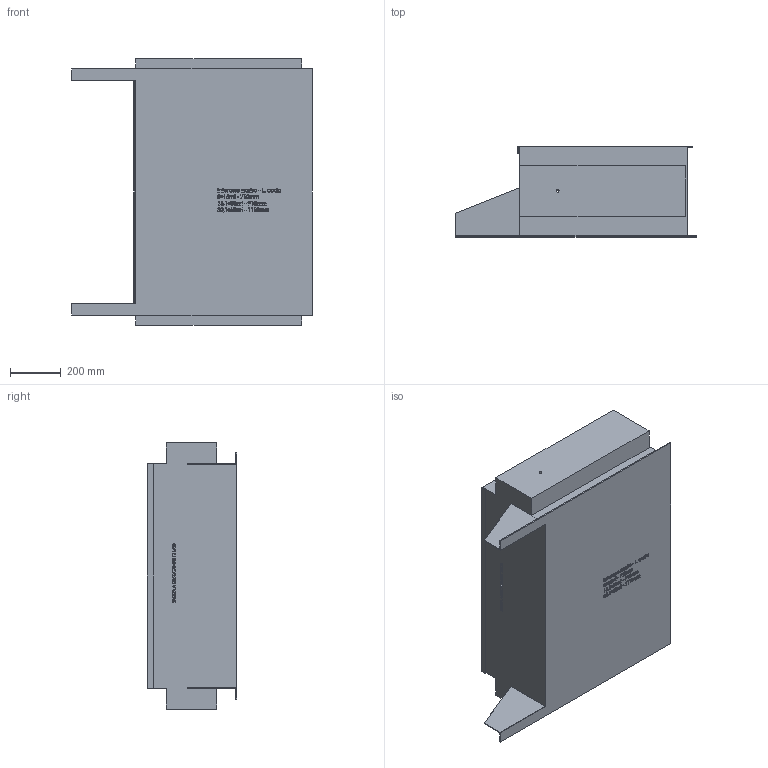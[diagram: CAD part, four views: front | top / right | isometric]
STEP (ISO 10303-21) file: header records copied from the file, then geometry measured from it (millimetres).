
FILE_DESCRIPTION (( 'STEP AP203' ), '1' );
FILE_NAME ('30755.step', '2019-03-14T14:31:50', ( 'PC' ), ( 'Hewlett-Packard Company' ), 'SwSTEP 2.0', 'SolidWorks 2016', '' );
FILE_SCHEMA (( 'CONFIG_CONTROL_DESIGN' ));
Length unit declared in the file: millimetre
Products named in the file (1): 30755
Bounding box: 950 x 353.5 x 1050 mm (x, y, z)
Volume: 228934305.4 mm3; surface area: 3047996.6 mm2
Topology: 1 solids, 1 shells, 1110 faces, 2964 edges, 1976 vertices
Faces by surface type: plane 679, bspline 429, cylinder 2
Entity records: 57931 total; most frequent: CARTESIAN_POINT 33072, ORIENTED_EDGE 5928, DIRECTION 3474, EDGE_CURVE 2964, VECTOR 2102, LINE 2102, VERTEX_POINT 1976, EDGE_LOOP 1232
